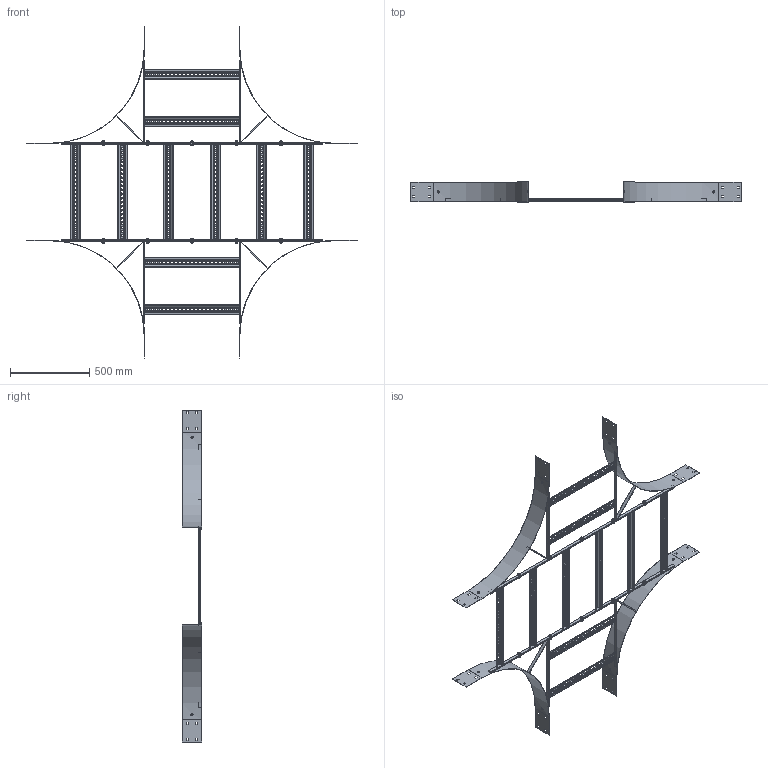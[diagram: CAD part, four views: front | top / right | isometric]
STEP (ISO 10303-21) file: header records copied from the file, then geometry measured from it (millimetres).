
FILE_DESCRIPTION (( 'STEP AP203' ), '1' );
FILE_NAME ('N3 C 6006.STEP', '2024-08-27T05:03:50', ( '' ), ( '' ), 'SwSTEP 2.0', 'SolidWorks 2023', '' );
FILE_SCHEMA (( 'CONFIG_CONTROL_DESIGN' ));
Length unit declared in the file: millimetre
Products named in the file (14): N3 RADIUS PLATE_N1-600 IR; Washers_M10 washer; Ladder Tee 20x5 Flat Bar_1645; Fascia bolt - M10x25_Fascia bolt; Ladder Rung_Ladder Rung -  600mm; N3C6006 horizontal_N3 C; Fascia Kit M10x25_4th position; CNH M10 Collar Nut_CNH M10 collar nut HDG; N3C6006 vertical with sides_N3 C; N3 C 6006; Ladder Tee 20x5 Flat Bar_240; Ladder Tee 20x5 Flat Bar_518
Assembly tree (33 placements, depth 3):
  N3 C 6006
    N3C6006 vertical with sides_N3 C  x2
      Ladder Tee 20x5 Flat Bar_1645
      N3 RADIUS PLATE_N1-600 IR
      Ladder Rung_Ladder Rung -  600mm
      Ladder Tee 20x5 Flat Bar_518
      Ladder Tee 20x5 Flat Bar_240
    N3C6006 horizontal_N3 C
      Ladder Rung_Ladder Rung -  600mm  x6
      Ladder Tee 20x5 Flat Bar_1645
      Ladder Tee 20x5 Flat Bar_1645
    Fascia Kit M10x25_4th position  x10
      Fascia bolt - M10x25_Fascia bolt
      Washers_M10 washer
      CNH M10 Collar Nut_CNH M10 collar nut HDG
Bounding box: 2085 x 124 x 2095 mm (x, y, z)
Volume: 2844317.1 mm3; surface area: 2589999.7 mm2
Topology: 56 solids, 56 shells, 3552 faces, 9498 edges, 6098 vertices
Faces by surface type: plane 2968, cylinder 204, cone 140, bspline 140, torus 80, sphere 20
Entity records: 17943 total; most frequent: CARTESIAN_POINT 4243, ORIENTED_EDGE 2466, DIRECTION 2263, EDGE_CURVE 1233, LINE 981, VECTOR 981, VERTEX_POINT 797, AXIS2_PLACEMENT_3D 641
